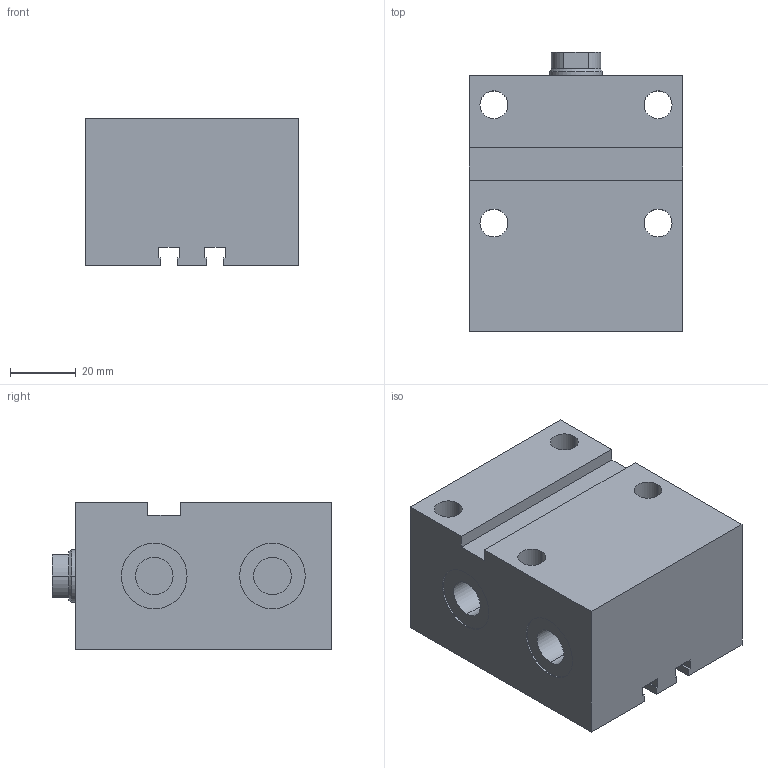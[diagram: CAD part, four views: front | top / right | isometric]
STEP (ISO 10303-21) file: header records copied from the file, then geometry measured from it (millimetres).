
FILE_DESCRIPTION (( 'STEP AP203' ), '1' );
FILE_NAME ('GERMA_Blockzylinder_701-025-020.STEP', '2016-08-01T16:59:40', ( '' ), ( '' ), 'SwSTEP 2.0', 'SolidWorks 2015', '' );
FILE_SCHEMA (( 'CONFIG_CONTROL_DESIGN' ));
Length unit declared in the file: millimetre
Products named in the file (3): Kolben_MT 70x-025_Kolben_MT DU.25-Hub20-IG; GERMA_Blockzylinder_701-025-020; GH-700-025_GH-701-025-020
Assembly tree (2 placements, depth 2):
  GERMA_Blockzylinder_701-025-020
    GH-700-025_GH-701-025-020
    Kolben_MT 70x-025_Kolben_MT DU.25-Hub20-IG
Bounding box: 65 x 85 x 45 mm (x, y, z)
Volume: 201010.5 mm3; surface area: 41387.5 mm2
Topology: 2 solids, 2 shells, 96 faces, 226 edges, 142 vertices
Faces by surface type: plane 43, cylinder 39, cone 14
Entity records: 3042 total; most frequent: DIRECTION 511, CARTESIAN_POINT 463, ORIENTED_EDGE 440, EDGE_CURVE 220, AXIS2_PLACEMENT_3D 190, VERTEX_POINT 142, VECTOR 131, LINE 131
